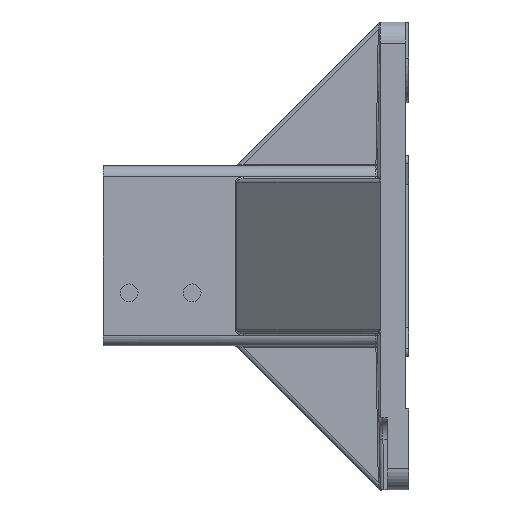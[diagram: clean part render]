
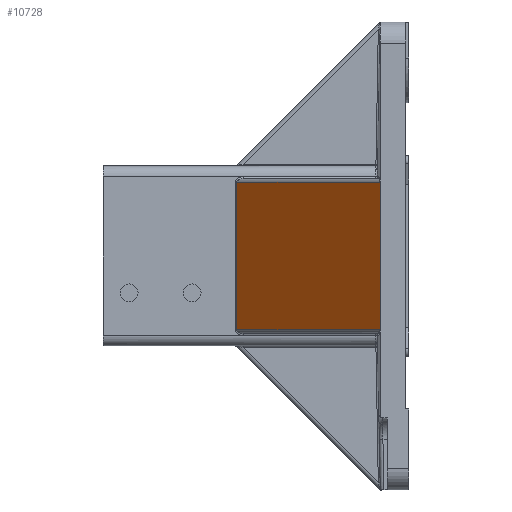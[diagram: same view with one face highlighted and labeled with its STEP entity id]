
A CAD part, left-side view. The second image highlights one B-rep face of the part: STEP entity #10728.
In plain terms, the highlighted planar face has unit normal (-0.707, 0.707, 0).
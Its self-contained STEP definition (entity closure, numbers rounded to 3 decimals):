
#519 = ORIENTED_EDGE ( 'NONE', *, *, #2749, .T. ) ;
#527 = VERTEX_POINT ( 'NONE', #10260 ) ;
#759 = AXIS2_PLACEMENT_3D ( 'NONE', #4708, #2076, #9048 ) ;
#1044 = LINE ( 'NONE', #4050, #3736 ) ;
#1213 = CARTESIAN_POINT ( 'NONE',  ( -50.293, 79.707, 41. ) ) ;
#1358 = ORIENTED_EDGE ( 'NONE', *, *, #6946, .T. ) ;
#1682 = VERTEX_POINT ( 'NONE', #5429 ) ;
#1699 = CARTESIAN_POINT ( 'NONE',  ( -130., 0., 39.733 ) ) ;
#1937 = VECTOR ( 'NONE', #9984, 1000. ) ;
#2076 = DIRECTION ( 'NONE',  ( 0.707, -0.707, 0. ) ) ;
#2500 = LINE ( 'NONE', #2567, #7797 ) ;
#2567 = CARTESIAN_POINT ( 'NONE',  ( -130., 0., 43. ) ) ;
#2572 = CARTESIAN_POINT ( 'NONE',  ( -129.976, 0.024, 40.181 ) ) ;
#2671 = VERTEX_POINT ( 'NONE', #10877 ) ;
#2749 = EDGE_CURVE ( 'NONE', #2835, #1682, #4763, .T. ) ;
#2835 = VERTEX_POINT ( 'NONE', #6533 ) ;
#3259 = EDGE_LOOP ( 'NONE', ( #1358, #519, #8989, #8067, #10405, #9705 ) ) ;
#3736 = VECTOR ( 'NONE', #6657, 1000. ) ;
#3747 = FACE_OUTER_BOUND ( 'NONE', #3259, .T. ) ;
#3998 = CARTESIAN_POINT ( 'NONE',  ( -129.806, 0.194, -40.816 ) ) ;
#4050 = CARTESIAN_POINT ( 'NONE',  ( -50.293, 79.707, 43. ) ) ;
#4315 = CARTESIAN_POINT ( 'NONE',  ( -129.714, 0.286, 41. ) ) ;
#4375 = LINE ( 'NONE', #7199, #11080 ) ;
#4631 = DIRECTION ( 'NONE',  ( -0.707, -0.707, 0. ) ) ;
#4708 = CARTESIAN_POINT ( 'NONE',  ( -50., 80., 43. ) ) ;
#4763 = B_SPLINE_CURVE_WITH_KNOTS ( 'NONE', 3,
 ( #8379, #3998, #8307, #9143, #5778, #4894 ),
 .UNSPECIFIED., .F., .F.,
 ( 4, 2, 4 ),
 ( 0., 0.001, 0.001 ),
 .UNSPECIFIED. ) ;
#4861 = EDGE_CURVE ( 'NONE', #2671, #1682, #2500, .T. ) ;
#4894 = CARTESIAN_POINT ( 'NONE',  ( -130., 0., -39.733 ) ) ;
#4938 = LINE ( 'NONE', #6377, #1937 ) ;
#5218 = CARTESIAN_POINT ( 'NONE',  ( -129.714, 0.286, 41. ) ) ;
#5429 = CARTESIAN_POINT ( 'NONE',  ( -130., 0., -39.733 ) ) ;
#5778 = CARTESIAN_POINT ( 'NONE',  ( -130., 0., -39.96 ) ) ;
#6047 = CARTESIAN_POINT ( 'NONE',  ( -129.76, 0.24, 40.909 ) ) ;
#6074 = VERTEX_POINT ( 'NONE', #5218 ) ;
#6377 = CARTESIAN_POINT ( 'NONE',  ( -50., 80., 41. ) ) ;
#6403 = PLANE ( 'NONE',  #759 ) ;
#6533 = CARTESIAN_POINT ( 'NONE',  ( -129.714, 0.286, -41. ) ) ;
#6657 = DIRECTION ( 'NONE',  ( 0., 0., -1. ) ) ;
#6918 = VERTEX_POINT ( 'NONE', #1213 ) ;
#6925 = CARTESIAN_POINT ( 'NONE',  ( -129.873, 0.127, 40.61 ) ) ;
#6946 = EDGE_CURVE ( 'NONE', #527, #2835, #4375, .T. ) ;
#7199 = CARTESIAN_POINT ( 'NONE',  ( -50., 80., -41. ) ) ;
#7364 = B_SPLINE_CURVE_WITH_KNOTS ( 'NONE', 3,
 ( #1699, #11233, #2572, #9584, #6925, #7766, #6047, #4315 ),
 .UNSPECIFIED., .F., .F.,
 ( 4, 2, 2, 4 ),
 ( 0., 0.001, 0.001, 0.001 ),
 .UNSPECIFIED. ) ;
#7396 = EDGE_CURVE ( 'NONE', #6074, #6918, #4938, .T. ) ;
#7766 = CARTESIAN_POINT ( 'NONE',  ( -129.802, 0.198, 40.811 ) ) ;
#7797 = VECTOR ( 'NONE', #9507, 1000. ) ;
#8067 = ORIENTED_EDGE ( 'NONE', *, *, #10460, .T. ) ;
#8307 = CARTESIAN_POINT ( 'NONE',  ( -129.879, 0.121, -40.612 ) ) ;
#8379 = CARTESIAN_POINT ( 'NONE',  ( -129.714, 0.286, -41. ) ) ;
#8989 = ORIENTED_EDGE ( 'NONE', *, *, #4861, .F. ) ;
#9048 = DIRECTION ( 'NONE',  ( 0.707, 0.707, 0. ) ) ;
#9143 = CARTESIAN_POINT ( 'NONE',  ( -129.976, 0.024, -40.181 ) ) ;
#9507 = DIRECTION ( 'NONE',  ( 0., 0., -1. ) ) ;
#9584 = CARTESIAN_POINT ( 'NONE',  ( -129.903, 0.097, 40.504 ) ) ;
#9705 = ORIENTED_EDGE ( 'NONE', *, *, #11181, .T. ) ;
#9984 = DIRECTION ( 'NONE',  ( 0.707, 0.707, 0. ) ) ;
#10260 = CARTESIAN_POINT ( 'NONE',  ( -50.293, 79.707, -41. ) ) ;
#10405 = ORIENTED_EDGE ( 'NONE', *, *, #7396, .T. ) ;
#10460 = EDGE_CURVE ( 'NONE', #2671, #6074, #7364, .T. ) ;
#10728 = ADVANCED_FACE ( 'NONE', ( #3747 ), #6403, .F. ) ;
#10877 = CARTESIAN_POINT ( 'NONE',  ( -130., 0., 39.733 ) ) ;
#11080 = VECTOR ( 'NONE', #4631, 1000. ) ;
#11181 = EDGE_CURVE ( 'NONE', #6918, #527, #1044, .T. ) ;
#11233 = CARTESIAN_POINT ( 'NONE',  ( -130., 0., 39.96 ) ) ;
